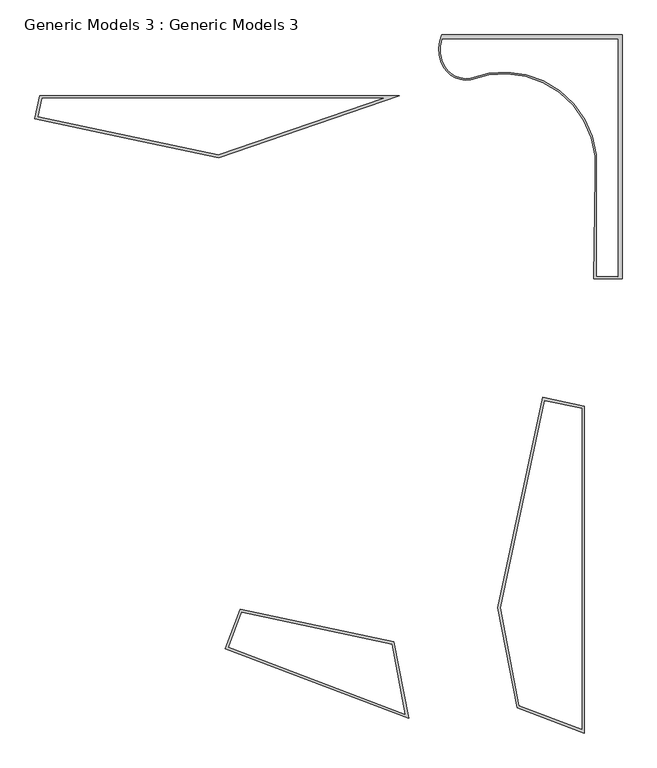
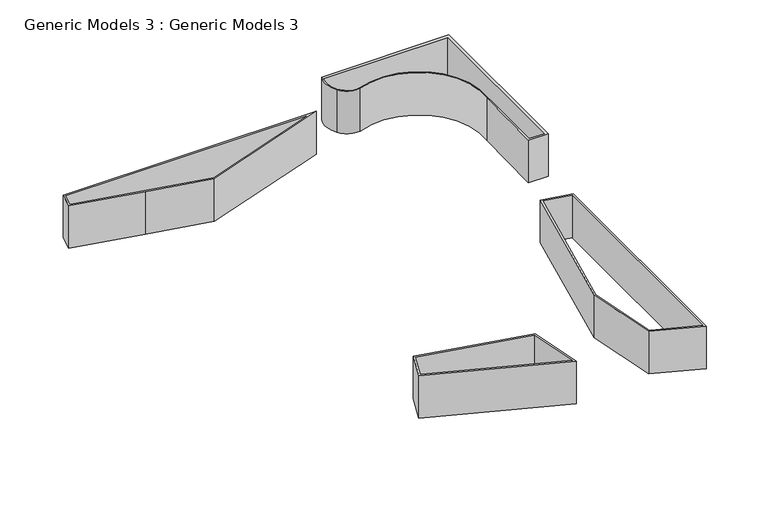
"""IFC4 building model written with IfcOpenShell, lengths in millimetres: proxy geometry, Generic Models 3 : Generic Models 3."""

from ifc_helpers import new_model, si_unit, point, frame_2d, origin, origin_with_axes, place, context, project, spatial, polyline, circle_curve, trimmed, segment, composite_curve, outline, extrude, source, transform, mapped, element, save


def generic_models_3_generic_models_3_6ea0846e(model_context):
    return source(origin(), model_context, "Body", "SweptSolid", [
        extrude(outline(polyline([(966327.0752764, 2943.3085165), (972638.5035593, 32593.9481027), (978505.0368874, 31345.1991757), (978505.0368874, -14780.037592), (969027.9736887, -11179.1560965), (966327.0752764, 2943.3085165)]), holes=[polyline([(978126.1003503, -14230.6899708), (978126.1003503, 31038.4334099), (972930.2437006, 32144.4222544), (966713.6471054, 2939.2951685), (969360.4088522, -10900.0995073), (978126.1003503, -14230.6899708)])]), origin_with_axes(), (0.0, 0.0, 1.0), 9000.0),
        extrude(outline(composite_curve([segment(polyline([(983846.8642056, 49337.9218806), (979854.1918722, 49385.4927261), (980028.5740096, 64021.5734571)]), True, "CONTINUOUS"), segment(trimmed(circle_curve(frame_2d((967171.6966219, 65376.3585132)), 12928.0601294), [point((980028.5740096, 64021.5734571))], [point((962461.1839917, 77415.7027425))], True, "CARTESIAN"), True, "CONTINUOUS"), segment(trimmed(circle_curve(frame_2d((961935.1503646, 81197.3456677)), 3818.0537699), [point((962461.1839917, 77415.7027425))], [point((958701.618398, 79167.1226231))], False, "CARTESIAN"), True, "CONTINUOUS"), segment(trimmed(circle_curve(frame_2d((962925.4515785, 81771.6380185)), 4962.284472), [point((958701.618398, 79167.1226231))], [point((958385.3918423, 83774.6669182))], False, "CARTESIAN"), True, "CONTINUOUS"), segment(polyline([(958385.3918423, 83774.6669182), (983846.8642056, 83774.6669182), (983846.8642056, 49337.9218806)]), True, "CONTINUOUS")], self_intersect=False), holes=[composite_curve([segment(trimmed(circle_curve(frame_2d((961857.0133919, 81087.5780388)), 3480.9838407), [point((958895.110994, 79258.8126946))], [point((962400.7884493, 77649.3288934))], True, "CARTESIAN"), True, "CONTINUOUS"), segment(trimmed(circle_curve(frame_2d((967178.9130026, 65378.4038336)), 13168.374086), [point((962400.7884493, 77649.3288934))], [point((980290.1632546, 64153.1720601))], False, "CARTESIAN"), True, "CONTINUOUS"), segment(polyline([(980290.1632546, 64153.1720601), (980290.1632546, 62259.3939777), (980290.1632546, 49677.2688423), (983209.4192027, 49642.487257), (983209.4192027, 83137.2219152), (958441.5319878, 83137.2219152)]), True, "CONTINUOUS"), segment(trimmed(circle_curve(frame_2d((963176.8185627, 81725.2849306)), 4941.3060009), [point((958441.5319878, 83137.2219152))], [point((958895.110994, 79258.8126946))], True, "CARTESIAN"), True, "CONTINUOUS")], self_intersect=False)]), origin_with_axes(), (0.0, 0.0, 1.0), 9000.0),
        extrude(outline(polyline([(926901.8151377, 66433.3992753), (914522.5365021, 69068.4496619), (900963.291893, 71954.6673326), (901658.0201223, 75218.4509667), (952361.0226363, 75218.4509667), (926901.8151377, 66433.3992753)]), holes=[polyline([(901964.785888, 74839.5144295), (901412.8177413, 72246.4074739), (926877.7331255, 66825.9514763), (950101.1550469, 74839.5144295), (901964.785888, 74839.5144295)])]), origin_with_axes(), (0.0, 0.0, 1.0), 9000.0),
        extrude(outline(polyline([(953704.1894736, -12686.2655271), (927832.2033981, -2856.0096811), (929953.1049689, 2725.9341428), (951639.4631227, -1890.2190369), (953704.1894736, -12686.2655271)]), holes=[polyline([(951314.5255424, -2208.4790081), (930191.9500965, 2287.6675148), (928321.023888, -2636.3728738), (953204.5525016, -12091.0568672), (951314.5255424, -2208.4790081)])]), origin_with_axes(), (0.0, 0.0, 1.0), 9000.0),
    ])


if __name__ == "__main__":
    model = new_model("IFC4")
    model_context = context("Model", 3, world=origin())
    ifc_project = project(units=[si_unit("LENGTHUNIT", "METRE", prefix="MILLI")], contexts=[model_context])
    site = spatial("IfcSite", under=ifc_project)
    building = spatial("IfcBuilding", under=site)
    placement = place(None, origin())
    generic_models_3_generic_models_3_shape = generic_models_3_generic_models_3_6ea0846e(model_context)
    element("IfcBuildingElementProxy", 1, Name="Generic Models 3 : Generic Models 3", ObjectType="Generic Models 3 : Generic Models 3", at=placement, inside=building, context=model_context, shape_type="MappedRepresentation", body=[
        mapped(generic_models_3_generic_models_3_shape, transform((0.0, 0.0, 0.0), x_axis=(1.0, 0.0, 0.0), y_axis=(0.0, 1.0, 0.0), z_axis=(0.0, 0.0, 1.0))),
    ])
    save(model, "model.ifc")
